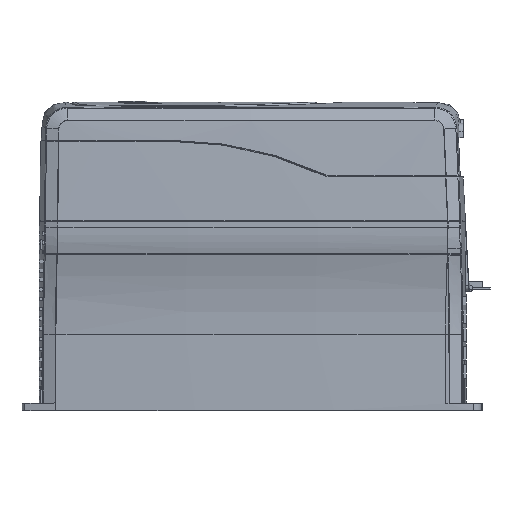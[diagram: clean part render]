
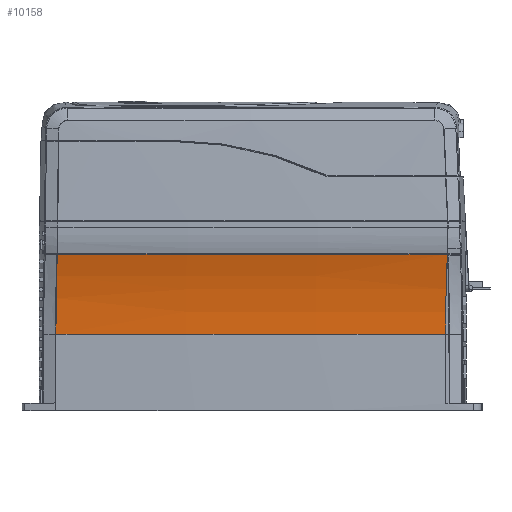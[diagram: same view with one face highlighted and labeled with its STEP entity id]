
A CAD part, left-side view. The second image highlights one B-rep face of the part: STEP entity #10158.
In plain terms, the highlighted toroidal (fillet/blend) face has major radius 3586.99 mm and minor radius 171.75 mm.
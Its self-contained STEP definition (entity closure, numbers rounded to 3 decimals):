
#651=CARTESIAN_POINT('',(-37.83,59.755,43.));
#652=CARTESIAN_POINT('',(-37.83,59.755,58.155));
#653=CARTESIAN_POINT('',(-39.859,59.527,73.319));
#654=CARTESIAN_POINT('',(-43.84,58.971,87.932));
#656=CARTESIAN_POINT('',(-43.857,-159.931,87.931));
#657=CARTESIAN_POINT('',(-42.541,-159.721,83.056));
#658=CARTESIAN_POINT('',(-40.339,-159.371,73.189));
#659=CARTESIAN_POINT('',(-38.346,-159.053,58.152));
#660=CARTESIAN_POINT('',(-37.903,-158.983,48.051));
#661=CARTESIAN_POINT('',(-37.903,-158.983,43.));
#663=CARTESIAN_POINT('',(3375.622,-50.75,43.));
#664=DIRECTION('',(0.,0.,-1.));
#665=DIRECTION('',(-0.999,-0.032,0.));
#666=AXIS2_PLACEMENT_3D('',#663,#664,#665);
#685=CARTESIAN_POINT('',(-43.84,58.971,87.932));
#730=CARTESIAN_POINT('',(3375.622,-50.75,87.931));
#731=DIRECTION('',(0.,0.,-1.));
#732=DIRECTION('',(-0.999,-0.032,0.));
#733=AXIS2_PLACEMENT_3D('',#730,#731,#732);
#7275=CARTESIAN_POINT('',(-37.83,59.755,43.));
#7276=VERTEX_POINT('',#7275);
#7281=VERTEX_POINT('',#685);
#7291=CARTESIAN_POINT('',(-43.857,-159.931,
87.931));
#7293=VERTEX_POINT('',#7291);
#8615=CARTESIAN_POINT('',(-37.903,-158.983,
43.));
#8616=VERTEX_POINT('',#8615);
#10144=CARTESIAN_POINT('',(3375.622,-50.75,
43.));
#10145=DIRECTION('',(0.,0.,1.));
#10146=DIRECTION('',(-0.999,-0.033,0.));
#10147=AXIS2_PLACEMENT_3D('',#10144,#10145,#10146);
#10148=TOROIDAL_SURFACE('',#10147,3586.99,171.75);
#10150=ORIENTED_EDGE('',*,*,#10149,.T.);
#10152=ORIENTED_EDGE('',*,*,#10151,.F.);
#10154=ORIENTED_EDGE('',*,*,#10153,.T.);
#10155=ORIENTED_EDGE('',*,*,#10056,.T.);
#10156=EDGE_LOOP('',(#10150,#10152,#10154,#10155));
#10157=FACE_OUTER_BOUND('',#10156,.F.);
#10158=ADVANCED_FACE('',(#10157),#10148,.F.);
#655=B_SPLINE_CURVE_WITH_KNOTS('',3,(#651,#652,#653,#654),.UNSPECIFIED.,.F.,.F.,
(4,4),(0.,1.),.UNSPECIFIED.);
#662=B_SPLINE_CURVE_WITH_KNOTS('',3,(#656,#657,#658,#659,#660,#661),
.UNSPECIFIED.,.F.,.F.,(4,1,1,4),(0.,0.333,0.667,1.),
.UNSPECIFIED.);
#667=CIRCLE('',#666,3415.24);
#734=CIRCLE('',#733,3421.221);
#10056=EDGE_CURVE('',#8616,#7276,#667,.T.);
#10149=EDGE_CURVE('',#7276,#7281,#655,.T.);
#10151=EDGE_CURVE('',#7293,#7281,#734,.T.);
#10153=EDGE_CURVE('',#7293,#8616,#662,.T.);
